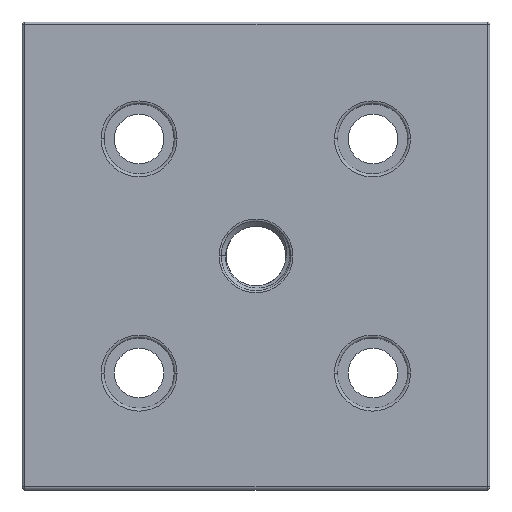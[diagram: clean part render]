
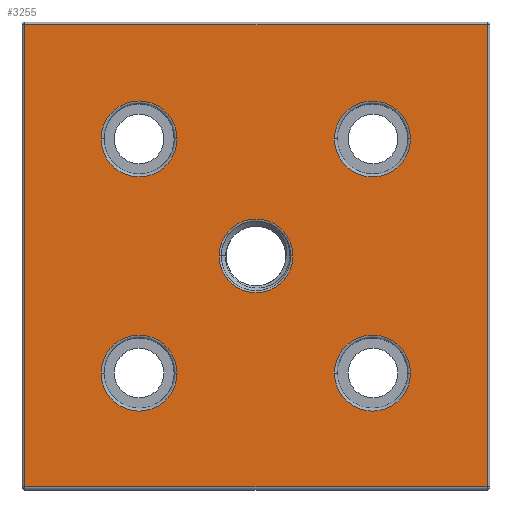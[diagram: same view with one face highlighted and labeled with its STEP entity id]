
A CAD part, top view. The second image highlights one B-rep face of the part: STEP entity #3255.
In plain terms, the highlighted planar face has unit normal (0, 0, 1).
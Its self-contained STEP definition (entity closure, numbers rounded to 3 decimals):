
#4 = DIRECTION ( 'NONE',  ( 0., 0., -1. ) ) ;
#19 = CARTESIAN_POINT ( 'NONE',  ( 26.413, 20., 6. ) ) ;
#36 = CIRCLE ( 'NONE', #954, 6.5 ) ;
#110 = FACE_BOUND ( 'NONE', #860, .T. ) ;
#148 = VERTEX_POINT ( 'NONE', #1199 ) ;
#165 = LINE ( 'NONE', #3270, #2045 ) ;
#243 = EDGE_LOOP ( 'NONE', ( #423, #2706 ) ) ;
#252 = EDGE_LOOP ( 'NONE', ( #2002, #1731 ) ) ;
#265 = AXIS2_PLACEMENT_3D ( 'NONE', #579, #3324, #2985 ) ;
#284 = CARTESIAN_POINT ( 'NONE',  ( -13.5, 20., 6. ) ) ;
#315 = CIRCLE ( 'NONE', #2430, 6.5 ) ;
#332 = CIRCLE ( 'NONE', #3320, 6.5 ) ;
#353 = VERTEX_POINT ( 'NONE', #3184 ) ;
#362 = CARTESIAN_POINT ( 'NONE',  ( -39.5, -39.5, 6. ) ) ;
#369 = VERTEX_POINT ( 'NONE', #2844 ) ;
#370 = CARTESIAN_POINT ( 'NONE',  ( -20., -20.03, 6. ) ) ;
#373 = CARTESIAN_POINT ( 'NONE',  ( 39.5, -39.5, 6. ) ) ;
#382 = VECTOR ( 'NONE', #1679, 1000. ) ;
#391 = FACE_BOUND ( 'NONE', #243, .T. ) ;
#423 = ORIENTED_EDGE ( 'NONE', *, *, #2432, .T. ) ;
#479 = AXIS2_PLACEMENT_3D ( 'NONE', #2263, #1908, #1556 ) ;
#527 = CIRCLE ( 'NONE', #1864, 6.5 ) ;
#562 = FACE_BOUND ( 'NONE', #2649, .T. ) ;
#566 = DIRECTION ( 'NONE',  ( 1., 0., 0. ) ) ;
#579 = CARTESIAN_POINT ( 'NONE',  ( 0., 0., 6. ) ) ;
#618 = VERTEX_POINT ( 'NONE', #1501 ) ;
#656 = FACE_BOUND ( 'NONE', #252, .T. ) ;
#672 = CIRCLE ( 'NONE', #2834, 6.5 ) ;
#723 = CIRCLE ( 'NONE', #2788, 6.5 ) ;
#727 = CARTESIAN_POINT ( 'NONE',  ( 19.913, 20., 6. ) ) ;
#751 = ORIENTED_EDGE ( 'NONE', *, *, #2313, .T. ) ;
#772 = VERTEX_POINT ( 'NONE', #373 ) ;
#788 = VERTEX_POINT ( 'NONE', #3118 ) ;
#789 = DIRECTION ( 'NONE',  ( 1., 0., 0. ) ) ;
#820 = FACE_OUTER_BOUND ( 'NONE', #2750, .T. ) ;
#860 = EDGE_LOOP ( 'NONE', ( #1157, #2386 ) ) ;
#910 = DIRECTION ( 'NONE',  ( 0., 0., -1. ) ) ;
#954 = AXIS2_PLACEMENT_3D ( 'NONE', #2769, #2033, #1682 ) ;
#984 = VERTEX_POINT ( 'NONE', #1609 ) ;
#994 = CIRCLE ( 'NONE', #2262, 6.307 ) ;
#1001 = FACE_BOUND ( 'NONE', #2372, .T. ) ;
#1068 = DIRECTION ( 'NONE',  ( 1., 0., 0. ) ) ;
#1082 = VECTOR ( 'NONE', #2523, 1000. ) ;
#1134 = DIRECTION ( 'NONE',  ( 0., 0., -1. ) ) ;
#1139 = ORIENTED_EDGE ( 'NONE', *, *, #3190, .T. ) ;
#1157 = ORIENTED_EDGE ( 'NONE', *, *, #2422, .T. ) ;
#1173 = DIRECTION ( 'NONE',  ( 1., 0., 0. ) ) ;
#1179 = CIRCLE ( 'NONE', #265, 6.307 ) ;
#1199 = CARTESIAN_POINT ( 'NONE',  ( 13.413, -20.03, 6. ) ) ;
#1256 = CARTESIAN_POINT ( 'NONE',  ( 19.913, -20.03, 6. ) ) ;
#1258 = DIRECTION ( 'NONE',  ( 1., 0., 0. ) ) ;
#1273 = EDGE_CURVE ( 'NONE', #3125, #1593, #1179, .T. ) ;
#1388 = EDGE_CURVE ( 'NONE', #772, #618, #2390, .T. ) ;
#1416 = ORIENTED_EDGE ( 'NONE', *, *, #1856, .T. ) ;
#1423 = DIRECTION ( 'NONE',  ( 0., 0., -1. ) ) ;
#1430 = EDGE_CURVE ( 'NONE', #1593, #3125, #994, .T. ) ;
#1464 = VERTEX_POINT ( 'NONE', #3046 ) ;
#1493 = CARTESIAN_POINT ( 'NONE',  ( -20., 20., 6. ) ) ;
#1501 = CARTESIAN_POINT ( 'NONE',  ( 39.5, 39.5, 6. ) ) ;
#1536 = DIRECTION ( 'NONE',  ( 0., 0., -1. ) ) ;
#1556 = DIRECTION ( 'NONE',  ( 1., 0., 0. ) ) ;
#1581 = ORIENTED_EDGE ( 'NONE', *, *, #2119, .T. ) ;
#1593 = VERTEX_POINT ( 'NONE', #3061 ) ;
#1609 = CARTESIAN_POINT ( 'NONE',  ( -39.5, 39.5, 6. ) ) ;
#1619 = DIRECTION ( 'NONE',  ( 1., 0., 0. ) ) ;
#1620 = DIRECTION ( 'NONE',  ( 0., 0., -1. ) ) ;
#1679 = DIRECTION ( 'NONE',  ( 0., 1., 0. ) ) ;
#1682 = DIRECTION ( 'NONE',  ( 1., 0., 0. ) ) ;
#1731 = ORIENTED_EDGE ( 'NONE', *, *, #2146, .T. ) ;
#1777 = CARTESIAN_POINT ( 'NONE',  ( 0., 0., 6. ) ) ;
#1784 = CIRCLE ( 'NONE', #2315, 6.5 ) ;
#1795 = VERTEX_POINT ( 'NONE', #284 ) ;
#1856 = EDGE_CURVE ( 'NONE', #1464, #2334, #672, .T. ) ;
#1864 = AXIS2_PLACEMENT_3D ( 'NONE', #1493, #1134, #789 ) ;
#1888 = CARTESIAN_POINT ( 'NONE',  ( -20., -20.03, 6. ) ) ;
#1908 = DIRECTION ( 'NONE',  ( 0., 0., 1. ) ) ;
#1922 = ORIENTED_EDGE ( 'NONE', *, *, #1430, .T. ) ;
#1960 = AXIS2_PLACEMENT_3D ( 'NONE', #727, #3133, #2791 ) ;
#1973 = DIRECTION ( 'NONE',  ( 0., 0., -1. ) ) ;
#1997 = ORIENTED_EDGE ( 'NONE', *, *, #1388, .T. ) ;
#2002 = ORIENTED_EDGE ( 'NONE', *, *, #2695, .T. ) ;
#2005 = ORIENTED_EDGE ( 'NONE', *, *, #2553, .T. ) ;
#2031 = CARTESIAN_POINT ( 'NONE',  ( 39.5, 40., 6. ) ) ;
#2033 = DIRECTION ( 'NONE',  ( 0., 0., -1. ) ) ;
#2045 = VECTOR ( 'NONE', #2935, 1000. ) ;
#2059 = CARTESIAN_POINT ( 'NONE',  ( -6.307, 0., 6. ) ) ;
#2099 = DIRECTION ( 'NONE',  ( 0., -1., 0. ) ) ;
#2119 = EDGE_CURVE ( 'NONE', #2680, #772, #165, .T. ) ;
#2146 = EDGE_CURVE ( 'NONE', #369, #1795, #527, .T. ) ;
#2262 = AXIS2_PLACEMENT_3D ( 'NONE', #1777, #1423, #1068 ) ;
#2263 = CARTESIAN_POINT ( 'NONE',  ( 0., 0., 6. ) ) ;
#2313 = EDGE_CURVE ( 'NONE', #618, #984, #3230, .T. ) ;
#2315 = AXIS2_PLACEMENT_3D ( 'NONE', #3053, #1620, #1258 ) ;
#2327 = CARTESIAN_POINT ( 'NONE',  ( 19.913, 20., 6. ) ) ;
#2334 = VERTEX_POINT ( 'NONE', #3154 ) ;
#2372 = EDGE_LOOP ( 'NONE', ( #1922, #3099 ) ) ;
#2386 = ORIENTED_EDGE ( 'NONE', *, *, #3119, .T. ) ;
#2390 = LINE ( 'NONE', #2031, #382 ) ;
#2422 = EDGE_CURVE ( 'NONE', #3114, #788, #315, .T. ) ;
#2430 = AXIS2_PLACEMENT_3D ( 'NONE', #2327, #1973, #1619 ) ;
#2432 = EDGE_CURVE ( 'NONE', #353, #148, #332, .T. ) ;
#2460 = CARTESIAN_POINT ( 'NONE',  ( -39.5, -40., 6. ) ) ;
#2523 = DIRECTION ( 'NONE',  ( -1., 0., 0. ) ) ;
#2553 = EDGE_CURVE ( 'NONE', #984, #2680, #2835, .T. ) ;
#2629 = PLANE ( 'NONE',  #479 ) ;
#2649 = EDGE_LOOP ( 'NONE', ( #1416, #1139 ) ) ;
#2680 = VERTEX_POINT ( 'NONE', #362 ) ;
#2695 = EDGE_CURVE ( 'NONE', #1795, #369, #36, .T. ) ;
#2706 = ORIENTED_EDGE ( 'NONE', *, *, #3164, .T. ) ;
#2750 = EDGE_LOOP ( 'NONE', ( #1997, #751, #2005, #1581 ) ) ;
#2769 = CARTESIAN_POINT ( 'NONE',  ( -20., 20., 6. ) ) ;
#2788 = AXIS2_PLACEMENT_3D ( 'NONE', #1888, #1536, #1173 ) ;
#2791 = DIRECTION ( 'NONE',  ( 1., 0., 0. ) ) ;
#2834 = AXIS2_PLACEMENT_3D ( 'NONE', #370, #4, #3115 ) ;
#2835 = LINE ( 'NONE', #2460, #3005 ) ;
#2844 = CARTESIAN_POINT ( 'NONE',  ( -26.5, 20., 6. ) ) ;
#2894 = CARTESIAN_POINT ( 'NONE',  ( -40., 39.5, 6. ) ) ;
#2935 = DIRECTION ( 'NONE',  ( 1., 0., 0. ) ) ;
#2985 = DIRECTION ( 'NONE',  ( 1., 0., 0. ) ) ;
#3005 = VECTOR ( 'NONE', #2099, 1000. ) ;
#3046 = CARTESIAN_POINT ( 'NONE',  ( -13.5, -20.03, 6. ) ) ;
#3053 = CARTESIAN_POINT ( 'NONE',  ( 19.913, -20.03, 6. ) ) ;
#3061 = CARTESIAN_POINT ( 'NONE',  ( 6.307, 0., 6. ) ) ;
#3099 = ORIENTED_EDGE ( 'NONE', *, *, #1273, .T. ) ;
#3114 = VERTEX_POINT ( 'NONE', #19 ) ;
#3115 = DIRECTION ( 'NONE',  ( 1., 0., 0. ) ) ;
#3118 = CARTESIAN_POINT ( 'NONE',  ( 13.413, 20., 6. ) ) ;
#3119 = EDGE_CURVE ( 'NONE', #788, #3114, #3411, .T. ) ;
#3125 = VERTEX_POINT ( 'NONE', #2059 ) ;
#3133 = DIRECTION ( 'NONE',  ( 0., 0., -1. ) ) ;
#3154 = CARTESIAN_POINT ( 'NONE',  ( -26.5, -20.03, 6. ) ) ;
#3164 = EDGE_CURVE ( 'NONE', #148, #353, #1784, .T. ) ;
#3184 = CARTESIAN_POINT ( 'NONE',  ( 26.413, -20.03, 6. ) ) ;
#3190 = EDGE_CURVE ( 'NONE', #2334, #1464, #723, .T. ) ;
#3230 = LINE ( 'NONE', #2894, #1082 ) ;
#3255 = ADVANCED_FACE ( 'NONE', ( #110, #391, #562, #656, #820, #1001 ), #2629, .T. ) ;
#3270 = CARTESIAN_POINT ( 'NONE',  ( 40., -39.5, 6. ) ) ;
#3320 = AXIS2_PLACEMENT_3D ( 'NONE', #1256, #910, #566 ) ;
#3324 = DIRECTION ( 'NONE',  ( 0., 0., -1. ) ) ;
#3411 = CIRCLE ( 'NONE', #1960, 6.5 ) ;
